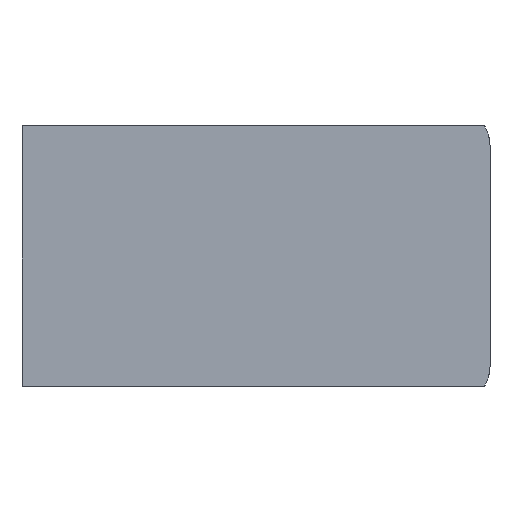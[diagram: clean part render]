
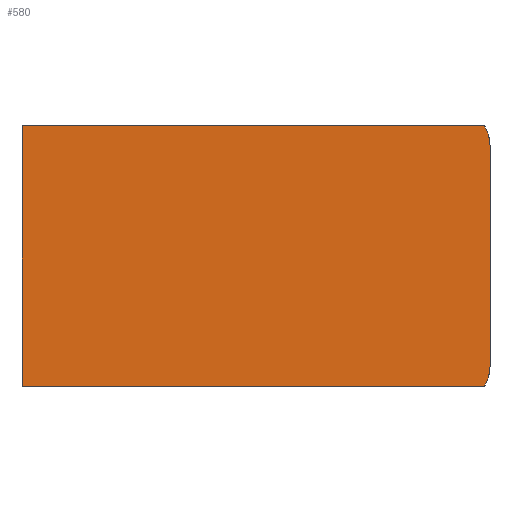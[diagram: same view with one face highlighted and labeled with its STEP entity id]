
A CAD part, top view. The second image highlights one B-rep face of the part: STEP entity #580.
In plain terms, the highlighted planar face has unit normal (0, 0, 1).
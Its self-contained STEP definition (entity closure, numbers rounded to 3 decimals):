
#32 = PLANE('',#33);
#33 = AXIS2_PLACEMENT_3D('',#34,#35,#36);
#34 = CARTESIAN_POINT('',(0.2,-77.195,-17.645));
#35 = DIRECTION('',(1.,0.,0.));
#36 = DIRECTION('',(0.,0.,1.));
#141 = VERTEX_POINT('',#142);
#142 = CARTESIAN_POINT('',(0.2,-50.495,-16.445));
#156 = PLANE('',#157);
#157 = AXIS2_PLACEMENT_3D('',#158,#159,#160);
#158 = CARTESIAN_POINT('',(0.2,-50.495,-17.045));
#159 = DIRECTION('',(0.,1.,0.));
#160 = DIRECTION('',(0.,0.,1.));
#168 = EDGE_CURVE('',#169,#141,#171,.T.);
#169 = VERTEX_POINT('',#170);
#170 = CARTESIAN_POINT('',(0.2,-77.995,-16.445));
#171 = SURFACE_CURVE('',#172,(#176,#183),.PCURVE_S1.);
#172 = LINE('',#173,#174);
#173 = CARTESIAN_POINT('',(0.2,-77.995,-16.445));
#174 = VECTOR('',#175,1.);
#175 = DIRECTION('',(0.,1.,0.));
#176 = PCURVE('',#32,#177);
#177 = DEFINITIONAL_REPRESENTATION('',(#178),#182);
#178 = LINE('',#179,#180);
#179 = CARTESIAN_POINT('',(1.2,0.8));
#180 = VECTOR('',#181,1.);
#181 = DIRECTION('',(0.,-1.));
#182 = ( GEOMETRIC_REPRESENTATION_CONTEXT(2) 
PARAMETRIC_REPRESENTATION_CONTEXT() REPRESENTATION_CONTEXT('2D SPACE',''
  ) );
#183 = PCURVE('',#184,#189);
#184 = PLANE('',#185);
#185 = AXIS2_PLACEMENT_3D('',#186,#187,#188);
#186 = CARTESIAN_POINT('',(0.2,-77.195,-16.445));
#187 = DIRECTION('',(0.,0.,1.));
#188 = DIRECTION('',(1.,0.,0.));
#189 = DEFINITIONAL_REPRESENTATION('',(#190),#194);
#190 = LINE('',#191,#192);
#191 = CARTESIAN_POINT('',(0.,-0.8));
#192 = VECTOR('',#193,1.);
#193 = DIRECTION('',(0.,1.));
#194 = ( GEOMETRIC_REPRESENTATION_CONTEXT(2) 
PARAMETRIC_REPRESENTATION_CONTEXT() REPRESENTATION_CONTEXT('2D SPACE',''
  ) );
#212 = PLANE('',#213);
#213 = AXIS2_PLACEMENT_3D('',#214,#215,#216);
#214 = CARTESIAN_POINT('',(0.2,-77.995,-17.045));
#215 = DIRECTION('',(0.,1.,0.));
#216 = DIRECTION('',(0.,0.,1.));
#270 = CYLINDRICAL_SURFACE('',#271,4.);
#271 = AXIS2_PLACEMENT_3D('',#272,#273,#274);
#272 = CARTESIAN_POINT('',(45.6,-75.895,-18.645));
#273 = DIRECTION('',(-0.,-0.,-1.));
#274 = DIRECTION('',(1.,0.,0.));
#393 = PLANE('',#394);
#394 = AXIS2_PLACEMENT_3D('',#395,#396,#397);
#395 = CARTESIAN_POINT('',(49.6,-75.895,-18.645));
#396 = DIRECTION('',(-1.,0.,0.));
#397 = DIRECTION('',(0.,1.,0.));
#423 = CYLINDRICAL_SURFACE('',#424,4.);
#424 = AXIS2_PLACEMENT_3D('',#425,#426,#427);
#425 = CARTESIAN_POINT('',(45.6,-52.595,-18.645));
#426 = DIRECTION('',(-0.,-0.,-1.));
#427 = DIRECTION('',(1.,0.,0.));
#539 = EDGE_CURVE('',#141,#540,#542,.T.);
#540 = VERTEX_POINT('',#541);
#541 = CARTESIAN_POINT('',(49.004,-50.495,
    -16.445));
#542 = SURFACE_CURVE('',#543,(#547,#554),.PCURVE_S1.);
#543 = LINE('',#544,#545);
#544 = CARTESIAN_POINT('',(0.2,-50.495,-16.445));
#545 = VECTOR('',#546,1.);
#546 = DIRECTION('',(1.,0.,0.));
#547 = PCURVE('',#156,#548);
#548 = DEFINITIONAL_REPRESENTATION('',(#549),#553);
#549 = LINE('',#550,#551);
#550 = CARTESIAN_POINT('',(0.6,0.));
#551 = VECTOR('',#552,1.);
#552 = DIRECTION('',(0.,1.));
#553 = ( GEOMETRIC_REPRESENTATION_CONTEXT(2) 
PARAMETRIC_REPRESENTATION_CONTEXT() REPRESENTATION_CONTEXT('2D SPACE',''
  ) );
#554 = PCURVE('',#184,#555);
#555 = DEFINITIONAL_REPRESENTATION('',(#556),#560);
#556 = LINE('',#557,#558);
#557 = CARTESIAN_POINT('',(0.,26.7));
#558 = VECTOR('',#559,1.);
#559 = DIRECTION('',(1.,0.));
#560 = ( GEOMETRIC_REPRESENTATION_CONTEXT(2) 
PARAMETRIC_REPRESENTATION_CONTEXT() REPRESENTATION_CONTEXT('2D SPACE',''
  ) );
#580 = ADVANCED_FACE('',(#581),#184,.T.);
#581 = FACE_BOUND('',#582,.T.);
#582 = EDGE_LOOP('',(#583,#584,#607,#635,#656,#682));
#583 = ORIENTED_EDGE('',*,*,#168,.F.);
#584 = ORIENTED_EDGE('',*,*,#585,.T.);
#585 = EDGE_CURVE('',#169,#586,#588,.T.);
#586 = VERTEX_POINT('',#587);
#587 = CARTESIAN_POINT('',(49.004,-77.995,
    -16.445));
#588 = SURFACE_CURVE('',#589,(#593,#600),.PCURVE_S1.);
#589 = LINE('',#590,#591);
#590 = CARTESIAN_POINT('',(0.2,-77.995,-16.445));
#591 = VECTOR('',#592,1.);
#592 = DIRECTION('',(1.,0.,0.));
#593 = PCURVE('',#184,#594);
#594 = DEFINITIONAL_REPRESENTATION('',(#595),#599);
#595 = LINE('',#596,#597);
#596 = CARTESIAN_POINT('',(0.,-0.8));
#597 = VECTOR('',#598,1.);
#598 = DIRECTION('',(1.,0.));
#599 = ( GEOMETRIC_REPRESENTATION_CONTEXT(2) 
PARAMETRIC_REPRESENTATION_CONTEXT() REPRESENTATION_CONTEXT('2D SPACE',''
  ) );
#600 = PCURVE('',#212,#601);
#601 = DEFINITIONAL_REPRESENTATION('',(#602),#606);
#602 = LINE('',#603,#604);
#603 = CARTESIAN_POINT('',(0.6,0.));
#604 = VECTOR('',#605,1.);
#605 = DIRECTION('',(0.,1.));
#606 = ( GEOMETRIC_REPRESENTATION_CONTEXT(2) 
PARAMETRIC_REPRESENTATION_CONTEXT() REPRESENTATION_CONTEXT('2D SPACE',''
  ) );
#607 = ORIENTED_EDGE('',*,*,#608,.F.);
#608 = EDGE_CURVE('',#609,#586,#611,.T.);
#609 = VERTEX_POINT('',#610);
#610 = CARTESIAN_POINT('',(49.6,-75.895,-16.445));
#611 = SURFACE_CURVE('',#612,(#617,#628),.PCURVE_S1.);
#612 = CIRCLE('',#613,4.);
#613 = AXIS2_PLACEMENT_3D('',#614,#615,#616);
#614 = CARTESIAN_POINT('',(45.6,-75.895,-16.445));
#615 = DIRECTION('',(0.,0.,-1.));
#616 = DIRECTION('',(1.,0.,0.));
#617 = PCURVE('',#184,#618);
#618 = DEFINITIONAL_REPRESENTATION('',(#619),#627);
#619 = ( BOUNDED_CURVE() B_SPLINE_CURVE(2,(#620,#621,#622,#623,#624,#625
,#626),.UNSPECIFIED.,.T.,.F.) B_SPLINE_CURVE_WITH_KNOTS((1,2,2,2,2,1),(
    -2.094,0.,2.094,4.189,6.283,
8.378),.UNSPECIFIED.) CURVE() GEOMETRIC_REPRESENTATION_ITEM() 
RATIONAL_B_SPLINE_CURVE((1.,0.5,1.,0.5,1.,0.5,1.)) REPRESENTATION_ITEM(
  '') );
#620 = CARTESIAN_POINT('',(49.4,1.3));
#621 = CARTESIAN_POINT('',(49.4,-5.628));
#622 = CARTESIAN_POINT('',(43.4,-2.164));
#623 = CARTESIAN_POINT('',(37.4,1.3));
#624 = CARTESIAN_POINT('',(43.4,4.764));
#625 = CARTESIAN_POINT('',(49.4,8.228));
#626 = CARTESIAN_POINT('',(49.4,1.3));
#627 = ( GEOMETRIC_REPRESENTATION_CONTEXT(2) 
PARAMETRIC_REPRESENTATION_CONTEXT() REPRESENTATION_CONTEXT('2D SPACE',''
  ) );
#628 = PCURVE('',#270,#629);
#629 = DEFINITIONAL_REPRESENTATION('',(#630),#634);
#630 = LINE('',#631,#632);
#631 = CARTESIAN_POINT('',(-6.283,-2.2));
#632 = VECTOR('',#633,1.);
#633 = DIRECTION('',(1.,-0.));
#634 = ( GEOMETRIC_REPRESENTATION_CONTEXT(2) 
PARAMETRIC_REPRESENTATION_CONTEXT() REPRESENTATION_CONTEXT('2D SPACE',''
  ) );
#635 = ORIENTED_EDGE('',*,*,#636,.F.);
#636 = EDGE_CURVE('',#637,#609,#639,.T.);
#637 = VERTEX_POINT('',#638);
#638 = CARTESIAN_POINT('',(49.6,-52.595,-16.445));
#639 = SURFACE_CURVE('',#640,(#644,#650),.PCURVE_S1.);
#640 = LINE('',#641,#642);
#641 = CARTESIAN_POINT('',(49.6,-76.545,-16.445));
#642 = VECTOR('',#643,1.);
#643 = DIRECTION('',(0.,-1.,0.));
#644 = PCURVE('',#184,#645);
#645 = DEFINITIONAL_REPRESENTATION('',(#646),#649);
#646 = B_SPLINE_CURVE_WITH_KNOTS('',1,(#647,#648),.UNSPECIFIED.,.F.,.F.,
  (2,2),(-23.95,-0.65),.PIECEWISE_BEZIER_KNOTS.);
#647 = CARTESIAN_POINT('',(49.4,24.6));
#648 = CARTESIAN_POINT('',(49.4,1.3));
#649 = ( GEOMETRIC_REPRESENTATION_CONTEXT(2) 
PARAMETRIC_REPRESENTATION_CONTEXT() REPRESENTATION_CONTEXT('2D SPACE',''
  ) );
#650 = PCURVE('',#393,#651);
#651 = DEFINITIONAL_REPRESENTATION('',(#652),#655);
#652 = B_SPLINE_CURVE_WITH_KNOTS('',1,(#653,#654),.UNSPECIFIED.,.F.,.F.,
  (2,2),(-23.95,-0.65),.PIECEWISE_BEZIER_KNOTS.);
#653 = CARTESIAN_POINT('',(23.3,-2.2));
#654 = CARTESIAN_POINT('',(0.,-2.2));
#655 = ( GEOMETRIC_REPRESENTATION_CONTEXT(2) 
PARAMETRIC_REPRESENTATION_CONTEXT() REPRESENTATION_CONTEXT('2D SPACE',''
  ) );
#656 = ORIENTED_EDGE('',*,*,#657,.F.);
#657 = EDGE_CURVE('',#540,#637,#658,.T.);
#658 = SURFACE_CURVE('',#659,(#664,#675),.PCURVE_S1.);
#659 = CIRCLE('',#660,4.);
#660 = AXIS2_PLACEMENT_3D('',#661,#662,#663);
#661 = CARTESIAN_POINT('',(45.6,-52.595,-16.445));
#662 = DIRECTION('',(0.,0.,-1.));
#663 = DIRECTION('',(1.,0.,0.));
#664 = PCURVE('',#184,#665);
#665 = DEFINITIONAL_REPRESENTATION('',(#666),#674);
#666 = ( BOUNDED_CURVE() B_SPLINE_CURVE(2,(#667,#668,#669,#670,#671,#672
,#673),.UNSPECIFIED.,.T.,.F.) B_SPLINE_CURVE_WITH_KNOTS((1,2,2,2,2,1),(
    -2.094,0.,2.094,4.189,6.283,
8.378),.UNSPECIFIED.) CURVE() GEOMETRIC_REPRESENTATION_ITEM() 
RATIONAL_B_SPLINE_CURVE((1.,0.5,1.,0.5,1.,0.5,1.)) REPRESENTATION_ITEM(
  '') );
#667 = CARTESIAN_POINT('',(49.4,24.6));
#668 = CARTESIAN_POINT('',(49.4,17.672));
#669 = CARTESIAN_POINT('',(43.4,21.136));
#670 = CARTESIAN_POINT('',(37.4,24.6));
#671 = CARTESIAN_POINT('',(43.4,28.064));
#672 = CARTESIAN_POINT('',(49.4,31.528));
#673 = CARTESIAN_POINT('',(49.4,24.6));
#674 = ( GEOMETRIC_REPRESENTATION_CONTEXT(2) 
PARAMETRIC_REPRESENTATION_CONTEXT() REPRESENTATION_CONTEXT('2D SPACE',''
  ) );
#675 = PCURVE('',#423,#676);
#676 = DEFINITIONAL_REPRESENTATION('',(#677),#681);
#677 = LINE('',#678,#679);
#678 = CARTESIAN_POINT('',(-6.283,-2.2));
#679 = VECTOR('',#680,1.);
#680 = DIRECTION('',(1.,-0.));
#681 = ( GEOMETRIC_REPRESENTATION_CONTEXT(2) 
PARAMETRIC_REPRESENTATION_CONTEXT() REPRESENTATION_CONTEXT('2D SPACE',''
  ) );
#682 = ORIENTED_EDGE('',*,*,#539,.F.);
